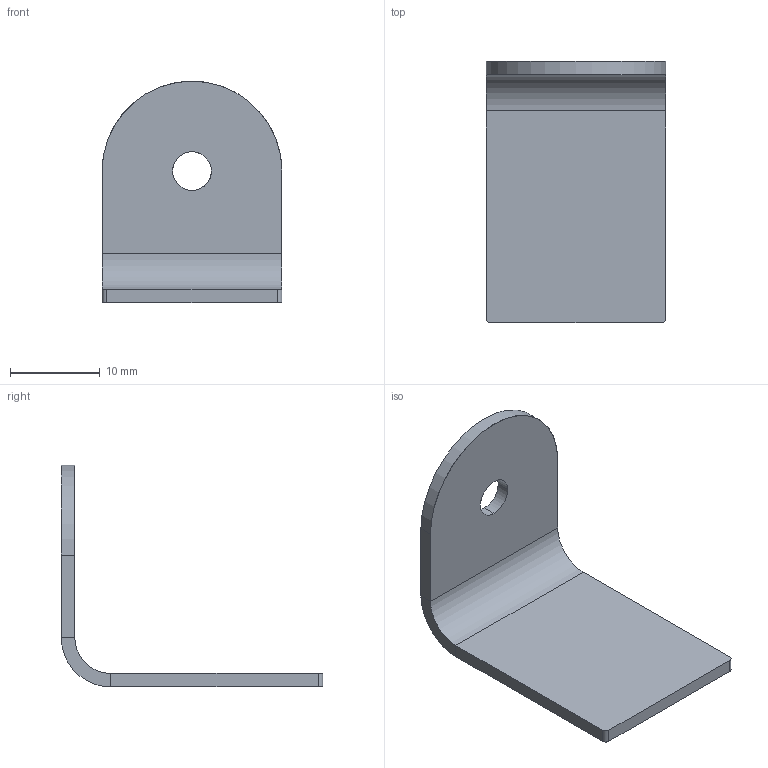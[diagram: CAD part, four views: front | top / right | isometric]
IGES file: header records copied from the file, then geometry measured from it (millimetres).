
Start section: START RECORD GO HERE.
Global section: file name: 20M_EL_0300_004.igs; native system: IBM CATIA IGES - CATIA Version 5 Release 19 ; preprocessor: CATIA Version 5 Release 19 ; author: alexb; organization: LAPTOP-PR6NE7IP; date: 20191218.154059; units: millimetre
Bounding box: 20 x 29.05 x 24.65 mm (x, y, z)
Surface area: 2108.5 mm2 (no closed solid volume)
Topology: 0 solids, 0 shells, 20 faces, 92 edges, 92 vertices
Faces by surface type: plane 11, revolution 9
